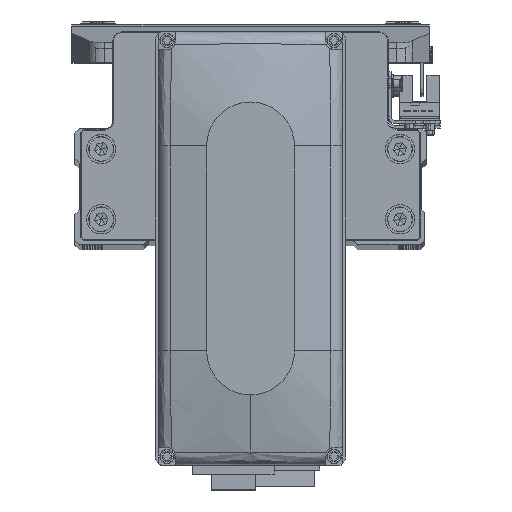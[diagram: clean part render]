
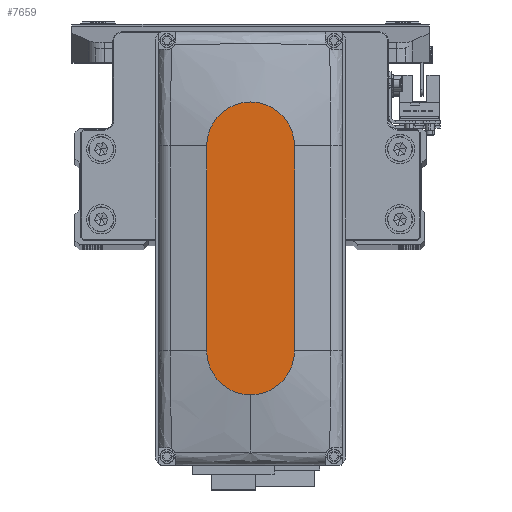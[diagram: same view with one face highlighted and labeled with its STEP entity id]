
A CAD part, top view. The second image highlights one B-rep face of the part: STEP entity #7659.
In plain terms, the highlighted planar face has unit normal (0, 0, 1).
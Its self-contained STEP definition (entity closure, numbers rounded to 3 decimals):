
#2142 = DIRECTION ( 'NONE',  ( 1., 0., 0. ) ) ;
#3669 = VERTEX_POINT ( 'NONE', #45278 ) ;
#5776 = PLANE ( 'NONE',  #46615 ) ;
#7286 = DIRECTION ( 'NONE',  ( 1., 0., 0. ) ) ;
#7659 = ADVANCED_FACE ( 'NONE', ( #39104 ), #5776, .T. ) ;
#8459 = AXIS2_PLACEMENT_3D ( 'NONE', #13814, #28671, #43521 ) ;
#8474 = CIRCLE ( 'NONE', #35655, 15. ) ;
#10077 = ORIENTED_EDGE ( 'NONE', *, *, #18196, .T. ) ;
#11607 = DIRECTION ( 'NONE',  ( 1., 0., 0. ) ) ;
#11725 = VERTEX_POINT ( 'NONE', #30321 ) ;
#13452 = CARTESIAN_POINT ( 'NONE',  ( -35., 15., 35. ) ) ;
#13495 = VERTEX_POINT ( 'NONE', #28069 ) ;
#13814 = CARTESIAN_POINT ( 'NONE',  ( -35., 0., 35. ) ) ;
#15523 = EDGE_CURVE ( 'NONE', #11725, #13495, #39550, .T. ) ;
#15559 = VECTOR ( 'NONE', #28307, 1000. ) ;
#16622 = LINE ( 'NONE', #31473, #41946 ) ;
#18196 = EDGE_CURVE ( 'NONE', #39191, #25945, #46794, .T. ) ;
#18577 = AXIS2_PLACEMENT_3D ( 'NONE', #25776, #40612, #7286 ) ;
#20616 = CARTESIAN_POINT ( 'NONE',  ( 0., 0., 35. ) ) ;
#20773 = ORIENTED_EDGE ( 'NONE', *, *, #46910, .T. ) ;
#21649 = ORIENTED_EDGE ( 'NONE', *, *, #44984, .T. ) ;
#24388 = CARTESIAN_POINT ( 'NONE',  ( 35., 15., 35. ) ) ;
#25776 = CARTESIAN_POINT ( 'NONE',  ( 35., 0., 35. ) ) ;
#25945 = VERTEX_POINT ( 'NONE', #26970 ) ;
#26970 = CARTESIAN_POINT ( 'NONE',  ( -35., 15., 35. ) ) ;
#28069 = CARTESIAN_POINT ( 'NONE',  ( 50., 0., 35. ) ) ;
#28307 = DIRECTION ( 'NONE',  ( -1., 0., 0. ) ) ;
#28671 = DIRECTION ( 'NONE',  ( 0., 0., 1. ) ) ;
#29438 = CIRCLE ( 'NONE', #8459, 15. ) ;
#29471 = EDGE_CURVE ( 'NONE', #25945, #3669, #29438, .T. ) ;
#30099 = CARTESIAN_POINT ( 'NONE',  ( 35., 0., 35. ) ) ;
#30321 = CARTESIAN_POINT ( 'NONE',  ( 35., -15., 35. ) ) ;
#31473 = CARTESIAN_POINT ( 'NONE',  ( -35., -15., 35. ) ) ;
#33561 = ORIENTED_EDGE ( 'NONE', *, *, #29471, .T. ) ;
#35445 = DIRECTION ( 'NONE',  ( 0., 0., 1. ) ) ;
#35655 = AXIS2_PLACEMENT_3D ( 'NONE', #30099, #44949, #11607 ) ;
#39104 = FACE_OUTER_BOUND ( 'NONE', #40457, .T. ) ;
#39191 = VERTEX_POINT ( 'NONE', #24388 ) ;
#39550 = CIRCLE ( 'NONE', #18577, 15. ) ;
#40457 = EDGE_LOOP ( 'NONE', ( #10077, #33561, #20773, #45065, #21649 ) ) ;
#40612 = DIRECTION ( 'NONE',  ( 0., 0., 1. ) ) ;
#41946 = VECTOR ( 'NONE', #46328, 1000. ) ;
#43521 = DIRECTION ( 'NONE',  ( 1., 0., 0. ) ) ;
#44949 = DIRECTION ( 'NONE',  ( 0., 0., 1. ) ) ;
#44984 = EDGE_CURVE ( 'NONE', #13495, #39191, #8474, .T. ) ;
#45065 = ORIENTED_EDGE ( 'NONE', *, *, #15523, .T. ) ;
#45278 = CARTESIAN_POINT ( 'NONE',  ( -35., -15., 35. ) ) ;
#46328 = DIRECTION ( 'NONE',  ( 1., 0., 0. ) ) ;
#46615 = AXIS2_PLACEMENT_3D ( 'NONE', #20616, #35445, #2142 ) ;
#46794 = LINE ( 'NONE', #13452, #15559 ) ;
#46910 = EDGE_CURVE ( 'NONE', #3669, #11725, #16622, .T. ) ;
